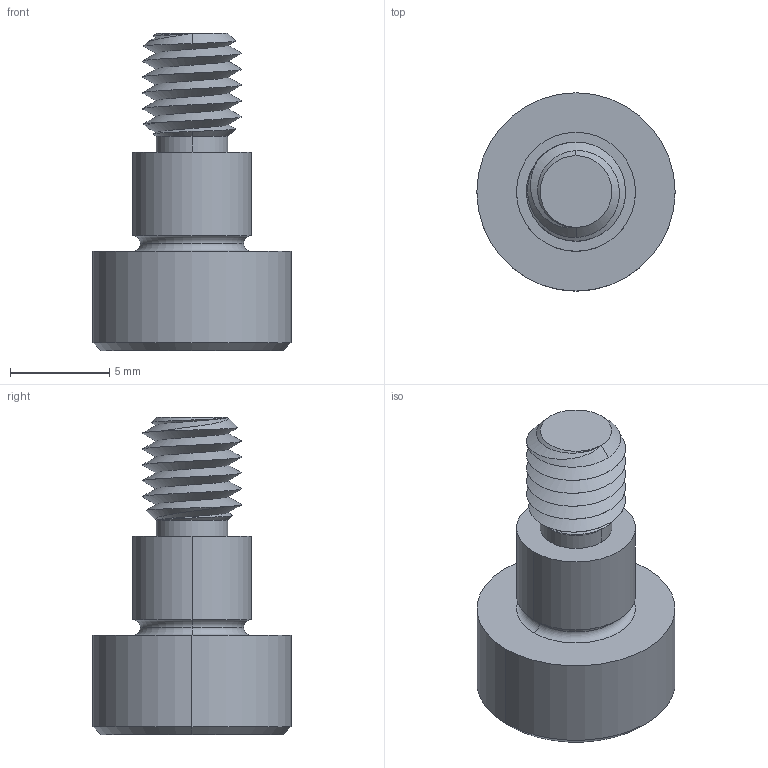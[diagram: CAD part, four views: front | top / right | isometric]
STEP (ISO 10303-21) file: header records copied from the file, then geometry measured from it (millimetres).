
FILE_DESCRIPTION (( 'STEP AP203' ), '1' );
FILE_NAME ('P0130.060-005-B2.step', '2021-11-09T21:21:11', ( '' ), ( '' ), 'SwSTEP 2.0', 'SolidWorks 2019', '' );
FILE_SCHEMA (( 'CONFIG_CONTROL_DESIGN' ));
Length unit declared in the file: millimetre
Products named in the file (1): P0130.060-005-B2
Bounding box: 10 x 10 x 16 mm (x, y, z)
Volume: 584.6 mm3; surface area: 581.8 mm2
Topology: 1 solids, 1 shells, 53 faces, 121 edges, 71 vertices
Faces by surface type: cylinder 17, plane 16, cone 14, torus 4, bspline 2
Entity records: 2367 total; most frequent: CARTESIAN_POINT 1186, ORIENTED_EDGE 238, DIRECTION 226, EDGE_CURVE 119, AXIS2_PLACEMENT_3D 92, VERTEX_POINT 71, EDGE_LOOP 56, ADVANCED_FACE 53
